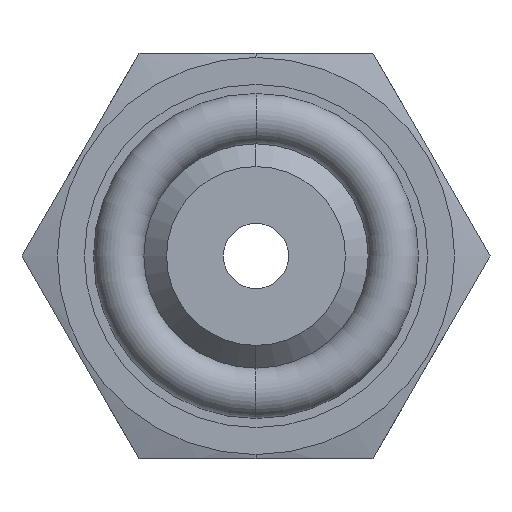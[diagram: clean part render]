
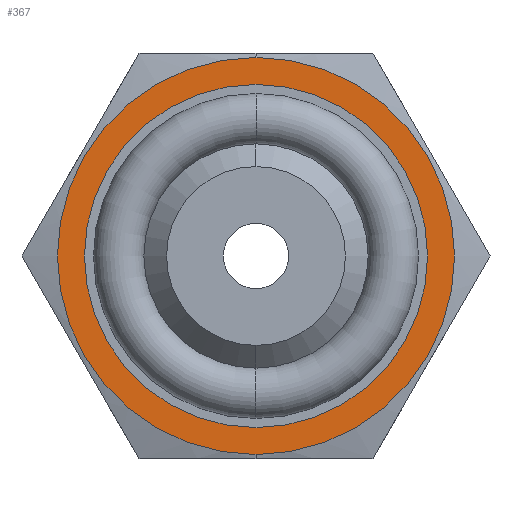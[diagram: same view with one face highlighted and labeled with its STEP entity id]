
A CAD part, left-side view. The second image highlights one B-rep face of the part: STEP entity #367.
In plain terms, the highlighted planar face has unit normal (-1, 0, 0).
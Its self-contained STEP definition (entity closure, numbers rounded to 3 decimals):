
#157 = EDGE_CURVE ( 'NONE', #158, #159, #919, .T. ) ;
#158 = VERTEX_POINT ( 'NONE', #914 ) ;
#159 = VERTEX_POINT ( 'NONE', #913 ) ;
#161 = VERTEX_POINT ( 'NONE', #912 ) ;
#167 = EDGE_CURVE ( 'NONE', #161, #168, #967, .T. ) ;
#168 = VERTEX_POINT ( 'NONE', #962 ) ;
#367 = ADVANCED_FACE ( 'NONE', ( #1397, #1396 ), #1395, .T. ) ;
#368 = EDGE_LOOP ( 'NONE', ( #369, #371 ) ) ;
#369 = ORIENTED_EDGE ( 'NONE', *, *, #370, .F. ) ;
#370 = EDGE_CURVE ( 'NONE', #168, #161, #1393, .T. ) ;
#371 = ORIENTED_EDGE ( 'NONE', *, *, #167, .F. ) ;
#372 = EDGE_LOOP ( 'NONE', ( #373, #375 ) ) ;
#373 = ORIENTED_EDGE ( 'NONE', *, *, #374, .T. ) ;
#374 = EDGE_CURVE ( 'NONE', #159, #158, #1384, .T. ) ;
#375 = ORIENTED_EDGE ( 'NONE', *, *, #157, .T. ) ;
#912 = CARTESIAN_POINT ( 'NONE',  ( -2.7, 0., -6.05 ) ) ;
#913 = CARTESIAN_POINT ( 'NONE',  ( -2.7, 0., -7. ) ) ;
#914 = CARTESIAN_POINT ( 'NONE',  ( -2.7, 0., 7. ) ) ;
#915 = DIRECTION ( 'NONE',  ( 0., 0., 1. ) ) ;
#916 = DIRECTION ( 'NONE',  ( -1., 0., 0. ) ) ;
#917 = CARTESIAN_POINT ( 'NONE',  ( -2.7, 0., 0. ) ) ;
#918 = AXIS2_PLACEMENT_3D ( 'NONE', #917, #916, #915 ) ;
#919 = CIRCLE ( 'NONE', #918, 7. ) ;
#962 = CARTESIAN_POINT ( 'NONE',  ( -2.7, 0., 6.05 ) ) ;
#963 = DIRECTION ( 'NONE',  ( 0., 0., 1. ) ) ;
#964 = DIRECTION ( 'NONE',  ( -1., 0., 0. ) ) ;
#965 = CARTESIAN_POINT ( 'NONE',  ( -2.7, 0., 0. ) ) ;
#966 = AXIS2_PLACEMENT_3D ( 'NONE', #965, #964, #963 ) ;
#967 = CIRCLE ( 'NONE', #966, 6.05 ) ;
#1384 = CIRCLE ( 'NONE', #1446, 7. ) ;
#1386 = DIRECTION ( 'NONE',  ( 0., 0., 1. ) ) ;
#1387 = DIRECTION ( 'NONE',  ( -1., 0., 0. ) ) ;
#1388 = CARTESIAN_POINT ( 'NONE',  ( -2.7, 0., 0. ) ) ;
#1389 = AXIS2_PLACEMENT_3D ( 'NONE', #1388, #1387, #1386 ) ;
#1390 = DIRECTION ( 'NONE',  ( 0., 0., 1. ) ) ;
#1391 = DIRECTION ( 'NONE',  ( -1., 0., 0. ) ) ;
#1392 = AXIS2_PLACEMENT_3D ( 'NONE', #1394, #1391, #1390 ) ;
#1393 = CIRCLE ( 'NONE', #1389, 6.05 ) ;
#1394 = CARTESIAN_POINT ( 'NONE',  ( -2.7, 0., 0. ) ) ;
#1395 = PLANE ( 'NONE',  #1392 ) ;
#1396 = FACE_OUTER_BOUND ( 'NONE', #372, .T. ) ;
#1397 = FACE_BOUND ( 'NONE', #368, .T. ) ;
#1443 = DIRECTION ( 'NONE',  ( 0., 0., 1. ) ) ;
#1444 = DIRECTION ( 'NONE',  ( -1., 0., 0. ) ) ;
#1445 = CARTESIAN_POINT ( 'NONE',  ( -2.7, 0., 0. ) ) ;
#1446 = AXIS2_PLACEMENT_3D ( 'NONE', #1445, #1444, #1443 ) ;
